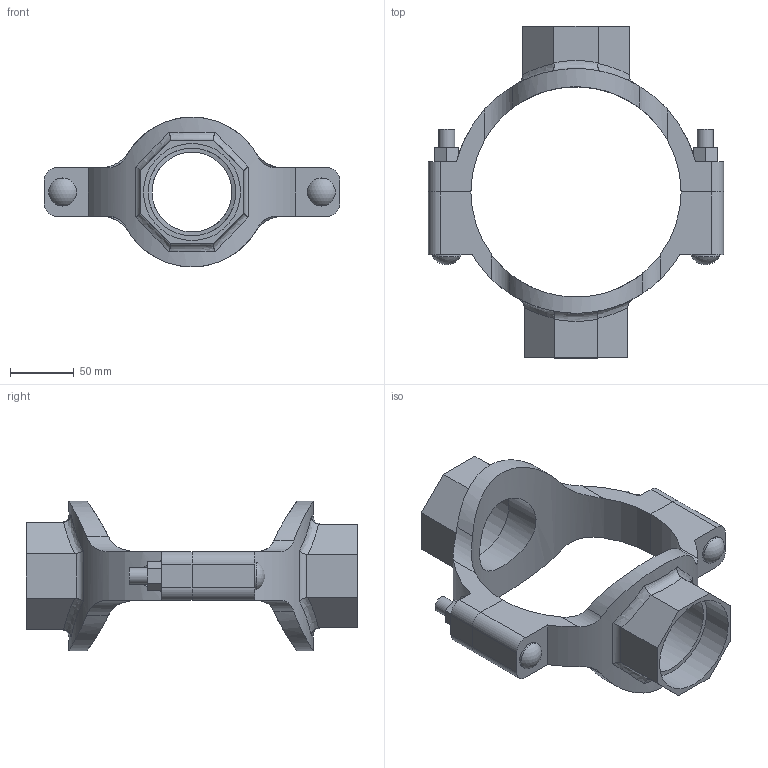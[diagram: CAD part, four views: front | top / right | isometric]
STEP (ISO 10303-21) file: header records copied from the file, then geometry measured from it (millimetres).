
FILE_DESCRIPTION(/* description */ ('VIC MECH-T BRANCH OUTLET CROSS STYLE 920N (THD)','CAx-IF Rec.Pracs.---Representation and Presentation of Product Manufacturing Information (PMI)---4.0---2014-10-13'),/* implementation_level */ '2;1');
FILE_NAME(/* name */ 'C:\Users\Vjadhav\AppData\Roaming\Autodesk\ApplicationPlugins\Back Up\Victaulic_IPS_Mechanical-Cross Outlet_Style 920N (FPT)\Victaulic_IPS_Mechanical-Cross Outlet_06.0 (165.1)x02.5x02.5 (76.1) (150x65x65).stp',/* time_stamp */ '2020-08-06T19:00:22+06:00',/* author */ ('Vjadhav'),/* organization */ ('Victaulic'),/* preprocessor_version */ 'ST-DEVELOPER v17.2',/* originating_system */ 'Autodesk Inventor 2019',/* authorisation */ '');
FILE_SCHEMA (('AP242_MANAGED_MODEL_BASED_3D_ENGINEERING_MIM_LF { 1 0 10303 442 1 1 4 }'));
Length unit declared in the file: inch
Products named in the file (3): 920NT-06.0 (165.1)x02.5x02.5 (76.1); 920NT-06.0 (165.1)x02.5x02.5 (76.1)_1; 920T-06.0 (165.1)x02.5 (76.1)
Assembly tree (2 placements, depth 2):
  920NT-06.0 (165.1)x02.5x02.5 (76.1)
    920NT-06.0 (165.1)x02.5x02.5 (76.1)_1
    920T-06.0 (165.1)x02.5 (76.1)
Bounding box: 231.9 x 260.6 x 117.6 mm (x, y, z)
Volume: 623849.6 mm3; surface area: 148844.3 mm2
Topology: 2 solids, 2 shells, 130 faces, 344 edges, 232 vertices
Faces by surface type: plane 68, cylinder 48, bspline 8, torus 4, sphere 2
Full cylindrical faces by diameter (mm): 12.7 x4, 21.982 x2, 62.738 x1, 68.986 x1, 73.025 x1, 76.2 x1
Entity records: 5154 total; most frequent: CARTESIAN_POINT 1695, ORIENTED_EDGE 688, DIRECTION 638, EDGE_CURVE 344, VERTEX_POINT 232, AXIS2_PLACEMENT_3D 227, LINE 184, VECTOR 184
